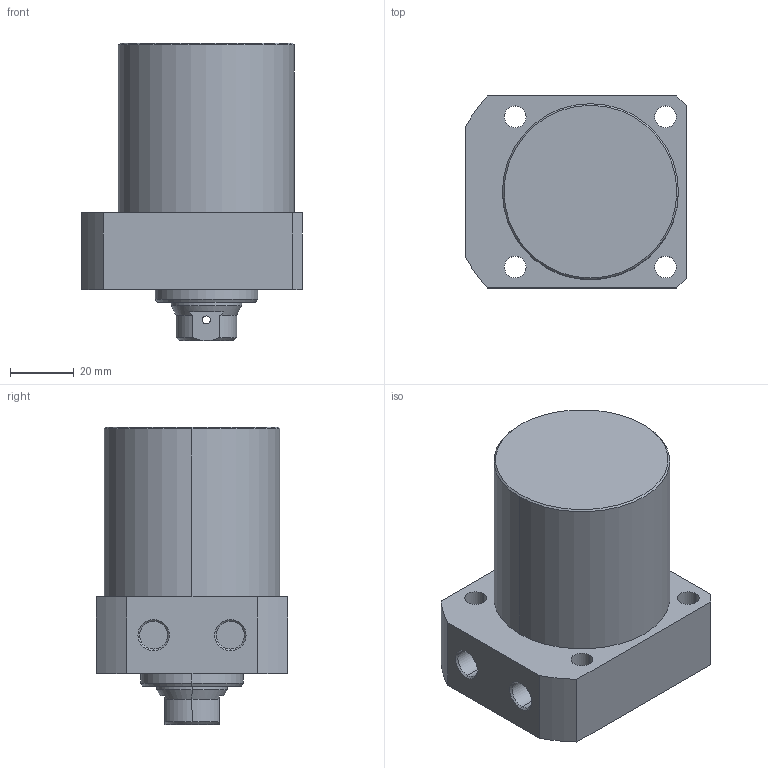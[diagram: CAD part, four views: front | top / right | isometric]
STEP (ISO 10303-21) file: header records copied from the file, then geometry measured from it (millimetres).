
FILE_DESCRIPTION (( 'STEP AP203' ), '1' );
FILE_NAME ('CLLR-055CB-040.STEP', '2019-12-19T07:48:18', ( '' ), ( '' ), 'SwSTEP 2.0', 'SolidWorks 2015', '' );
FILE_SCHEMA (( 'CONFIG_CONTROL_DESIGN' ));
Length unit declared in the file: millimetre
Products named in the file (1): CLLR-055CB-040
Bounding box: 69 x 60 x 93 mm (x, y, z)
Volume: 223516.1 mm3; surface area: 27384.3 mm2
Topology: 1 solids, 1 shells, 69 faces, 163 edges, 102 vertices
Faces by surface type: cylinder 33, plane 19, cone 17
Entity records: 2183 total; most frequent: CARTESIAN_POINT 453, DIRECTION 368, ORIENTED_EDGE 322, EDGE_CURVE 161, AXIS2_PLACEMENT_3D 149, VERTEX_POINT 102, EDGE_LOOP 89, CIRCLE 79
